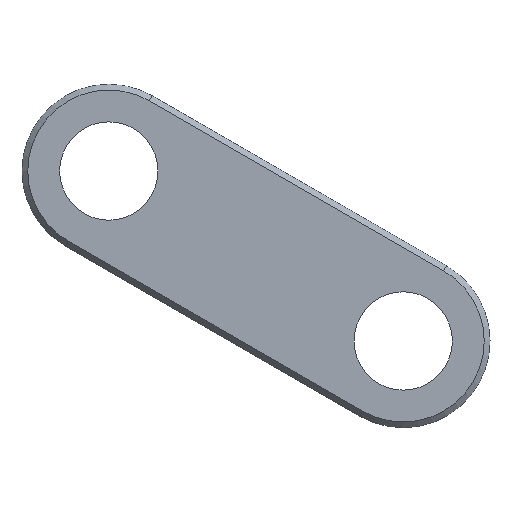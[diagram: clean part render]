
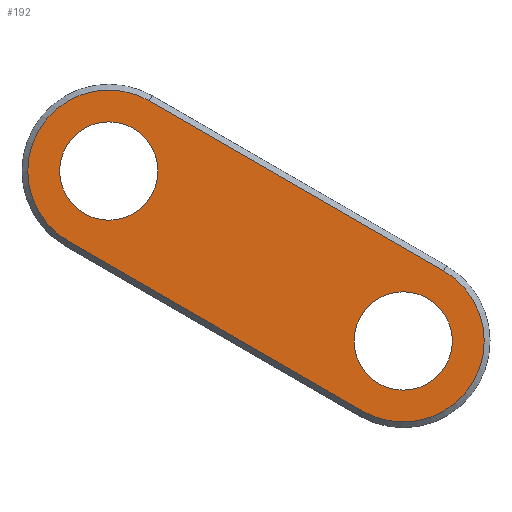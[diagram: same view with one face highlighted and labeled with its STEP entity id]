
A CAD part, left-side view. The second image highlights one B-rep face of the part: STEP entity #192.
In plain terms, the highlighted planar face has unit normal (-1, 0, 0).
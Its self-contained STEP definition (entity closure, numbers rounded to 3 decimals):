
#54=AXIS2_PLACEMENT_3D('Circle Axis2P3D',#52,#53,$) ;
#78=AXIS2_PLACEMENT_3D('Circle Axis2P3D',#76,#77,$) ;
#111=AXIS2_PLACEMENT_3D('Circle Axis2P3D',#109,#110,$) ;
#135=AXIS2_PLACEMENT_3D('Circle Axis2P3D',#133,#134,$) ;
#148=AXIS2_PLACEMENT_3D('Plane Axis2P3D',#145,#146,#147) ;
#152=AXIS2_PLACEMENT_3D('Circle Axis2P3D',#150,#151,$) ;
#168=AXIS2_PLACEMENT_3D('Circle Axis2P3D',#166,#167,$) ;
#49=CARTESIAN_POINT('Vertex',(36949.1,1548.831,2352.408)) ;
#52=CARTESIAN_POINT('Axis2P3D Location',(36949.1,1540.331,2352.408)) ;
#56=CARTESIAN_POINT('Vertex',(36949.1,1531.831,2352.408)) ;
#76=CARTESIAN_POINT('Axis2P3D Location',(36949.1,1540.331,2352.408)) ;
#106=CARTESIAN_POINT('Vertex',(36949.1,1599.717,2381.787)) ;
#109=CARTESIAN_POINT('Axis2P3D Location',(36949.1,1591.217,2381.787)) ;
#113=CARTESIAN_POINT('Vertex',(36949.1,1582.717,2381.787)) ;
#133=CARTESIAN_POINT('Axis2P3D Location',(36949.1,1591.217,2381.787)) ;
#145=CARTESIAN_POINT('Axis2P3D Location',(36949.1,1540.331,2352.408)) ;
#150=CARTESIAN_POINT('Axis2P3D Location',(36949.1,1591.217,2381.787)) ;
#154=CARTESIAN_POINT('Vertex',(36949.1,1598.217,2369.663)) ;
#156=CARTESIAN_POINT('Vertex',(36949.1,1584.217,2393.912)) ;
#159=CARTESIAN_POINT('Line Origine',(36949.1,1572.774,2354.973)) ;
#163=CARTESIAN_POINT('Vertex',(36949.1,1547.331,2340.284)) ;
#166=CARTESIAN_POINT('Axis2P3D Location',(36949.1,1540.331,2352.408)) ;
#170=CARTESIAN_POINT('Vertex',(36949.1,1533.331,2364.533)) ;
#173=CARTESIAN_POINT('Line Origine',(36949.1,1558.774,2379.222)) ;
#53=DIRECTION('Axis2P3D Direction',(1.,-0.,0.)) ;
#77=DIRECTION('Axis2P3D Direction',(1.,-0.,0.)) ;
#110=DIRECTION('Axis2P3D Direction',(1.,-0.,0.)) ;
#134=DIRECTION('Axis2P3D Direction',(1.,-0.,0.)) ;
#146=DIRECTION('Axis2P3D Direction',(1.,0.,0.)) ;
#147=DIRECTION('Axis2P3D XDirection',(0.,1.,0.)) ;
#151=DIRECTION('Axis2P3D Direction',(1.,0.,0.)) ;
#160=DIRECTION('Vector Direction',(0.,-0.866,-0.5)) ;
#167=DIRECTION('Axis2P3D Direction',(1.,0.,0.)) ;
#174=DIRECTION('Vector Direction',(0.,0.866,0.5)) ;
#161=VECTOR('Line Direction',#160,1.) ;
#175=VECTOR('Line Direction',#174,1.) ;
#179=ORIENTED_EDGE('',*,*,#158,.F.) ;
#180=ORIENTED_EDGE('',*,*,#165,.F.) ;
#181=ORIENTED_EDGE('',*,*,#172,.F.) ;
#182=ORIENTED_EDGE('',*,*,#177,.F.) ;
#185=ORIENTED_EDGE('',*,*,#80,.T.) ;
#186=ORIENTED_EDGE('',*,*,#58,.T.) ;
#189=ORIENTED_EDGE('',*,*,#137,.T.) ;
#190=ORIENTED_EDGE('',*,*,#115,.T.) ;
#187=FACE_BOUND('',#184,.T.) ;
#191=FACE_BOUND('',#188,.T.) ;
#192=ADVANCED_FACE('V.9626.7522.810.051-04 - \X2\041704320435043D043E\X0\',(#183,#187,#191),#149,.F.) ;
#55=CIRCLE('generated circle',#54,8.5) ;
#79=CIRCLE('generated circle',#78,8.5) ;
#112=CIRCLE('generated circle',#111,8.5) ;
#136=CIRCLE('generated circle',#135,8.5) ;
#153=CIRCLE('generated circle',#152,14.) ;
#169=CIRCLE('generated circle',#168,14.) ;
#58=EDGE_CURVE('',#57,#50,#55,.T.) ;
#80=EDGE_CURVE('',#50,#57,#79,.T.) ;
#115=EDGE_CURVE('',#114,#107,#112,.T.) ;
#137=EDGE_CURVE('',#107,#114,#136,.T.) ;
#158=EDGE_CURVE('',#155,#157,#153,.T.) ;
#165=EDGE_CURVE('',#164,#155,#162,.F.) ;
#172=EDGE_CURVE('',#171,#164,#169,.T.) ;
#177=EDGE_CURVE('',#157,#171,#176,.F.) ;
#178=EDGE_LOOP('',(#179,#180,#181,#182)) ;
#184=EDGE_LOOP('',(#185,#186)) ;
#188=EDGE_LOOP('',(#189,#190)) ;
#183=FACE_OUTER_BOUND('',#178,.T.) ;
#162=LINE('Line',#159,#161) ;
#176=LINE('Line',#173,#175) ;
#149=PLANE('',#148) ;
#50=VERTEX_POINT('',#49) ;
#57=VERTEX_POINT('',#56) ;
#107=VERTEX_POINT('',#106) ;
#114=VERTEX_POINT('',#113) ;
#155=VERTEX_POINT('',#154) ;
#157=VERTEX_POINT('',#156) ;
#164=VERTEX_POINT('',#163) ;
#171=VERTEX_POINT('',#170) ;
